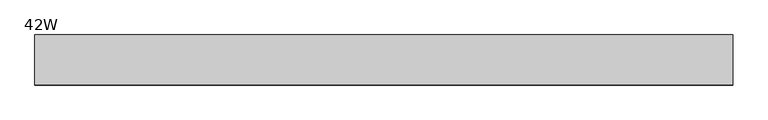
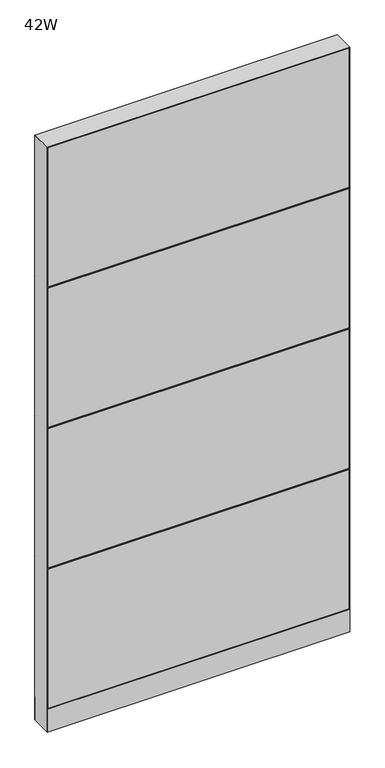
"""IFC4 building model written with IfcOpenShell, lengths in millimetres: furniture geometry, Steelcase - Montage - Frame - 86H - Enhanced Monolithic - Base Cavity : 42W."""

from ifc_helpers import new_model, si_unit, point, frame, frame_2d, origin, origin_with_axes, place, context, project, spatial, polyline, circle_curve, trimmed, segment, composite_curve, outline, extrude, faceted_brep, source, transform, mapped, element, save


def furniture_42w_71755c8c(model_context):
    return source(origin(), model_context, "Body", "SolidModel", [
        faceted_brep([(-5.4e-06, 38.102627, 1136.6500027), (6.3499917, 31.7526299, 1142.9999997), (1060.4500047, 31.7526299, 1142.9999997), (1066.8, 38.1026253, 1136.6500044), (1060.4500047, 31.7526299, 1130.3000003), (6.3499917, 31.7526299, 1130.3000003)], [[[0, 1, 2, 3]], [[3, 4, 5, 0]], [[1, 5, 4, 2]], [[0, 5, 1]], [[2, 4, 3]]]),
        faceted_brep([(-5.4e-06, 38.102627, 612.7750027), (6.3499917, 31.7526299, 619.1249997), (1060.4500047, 31.7526299, 619.1249997), (1066.8, 38.1026253, 612.7750044), (1060.4500047, 31.7526299, 606.4250003), (6.3499917, 31.7526299, 606.4250003)], [[[0, 1, 2, 3]], [[3, 4, 5, 0]], [[1, 5, 4, 2]], [[0, 5, 1]], [[2, 4, 3]]]),
        faceted_brep([(-5.4e-06, 38.102627, 1660.5250027), (6.3499917, 31.7526299, 1666.8749997), (1060.4500047, 31.7526299, 1666.8749997), (1066.8, 38.1026253, 1660.5250044), (1060.4500047, 31.7526299, 1654.1750003), (6.3499917, 31.7526299, 1654.1750003)], [[[0, 1, 2, 3]], [[3, 4, 5, 0]], [[1, 5, 4, 2]], [[0, 5, 1]], [[2, 4, 3]]]),
        extrude(outline(polyline([(3.175, 31.7500194), (3.175, 38.1000194), (1063.625, 38.1000194), (1063.625, 31.7500194), (3.175, 31.7500194)])), frame((0.0, 0.0, 1663.7), z_axis=(0.0, 0.0, 1.0), x_axis=(1.0, 0.0, 0.0)), (0.0, 0.0, 1.0), 517.525),
        extrude(outline(polyline([(3.175, 31.7500194), (3.175, 38.1000194), (1063.625, 38.1000194), (1063.625, 31.7500194), (3.175, 31.7500194)])), frame((0.0, 0.0, 92.075), z_axis=(0.0, 0.0, 1.0), x_axis=(1.0, 0.0, 0.0)), (0.0, 0.0, 1.0), 517.525),
        extrude(outline(polyline([(3.175, 31.7500194), (3.175, 38.1000194), (1063.625, 38.1000194), (1063.625, 31.7500194), (3.175, 31.7500194)])), frame((0.0, 0.0, 615.95), z_axis=(0.0, 0.0, 1.0), x_axis=(1.0, 0.0, 0.0)), (0.0, 0.0, 1.0), 517.525),
        extrude(outline(polyline([(3.175, 31.7500194), (3.175, 38.1000194), (1063.625, 38.1000194), (1063.625, 31.7500194), (3.175, 31.7500194)])), frame((0.0, 0.0, 1139.825), z_axis=(0.0, 0.0, 1.0), x_axis=(1.0, 0.0, 0.0)), (0.0, 0.0, 1.0), 517.525),
        faceted_brep([(0.0, -38.1026297, 1136.65), (1066.8, -38.1026297, 1136.65), (1060.4500047, -31.7526299, 1142.9999997), (6.3499917, -31.7526299, 1142.9999997), (6.3499917, -31.7526299, 1130.3000003), (1060.4500047, -31.7526299, 1130.3000003)], [[[0, 1, 2, 3]], [[1, 0, 4, 5]], [[3, 2, 5, 4]], [[0, 3, 4]], [[2, 1, 5]]]),
        faceted_brep([(0.0, -38.1026297, 612.775), (1066.8, -38.1026297, 612.775), (1060.4500047, -31.7526299, 619.1249997), (6.3499917, -31.7526299, 619.1249997), (6.3499917, -31.7526299, 606.4250003), (1060.4500047, -31.7526299, 606.4250003)], [[[0, 1, 2, 3]], [[1, 0, 4, 5]], [[3, 2, 5, 4]], [[0, 3, 4]], [[2, 1, 5]]]),
        faceted_brep([(0.0, -38.1026297, 1660.525), (1066.8, -38.1026297, 1660.525), (1060.4500047, -31.7526299, 1666.8749997), (6.3499917, -31.7526299, 1666.8749997), (6.3499917, -31.7526299, 1654.1750003), (1060.4500047, -31.7526299, 1654.1750003)], [[[0, 1, 2, 3]], [[1, 0, 4, 5]], [[3, 2, 5, 4]], [[0, 3, 4]], [[2, 1, 5]]]),
        extrude(outline(polyline([(3.175, -31.7500194), (1063.625, -31.7500194), (1063.625, -38.1000194), (3.175, -38.1000194), (3.175, -31.7500194)])), frame((0.0, 0.0, 1663.7), z_axis=(0.0, 0.0, 1.0), x_axis=(1.0, 0.0, 0.0)), (0.0, 0.0, 1.0), 517.525),
        extrude(outline(polyline([(3.175, -31.7500194), (1063.625, -31.7500194), (1063.625, -38.1000194), (3.175, -38.1000194), (3.175, -31.7500194)])), frame((0.0, 0.0, 92.075), z_axis=(0.0, 0.0, 1.0), x_axis=(1.0, 0.0, 0.0)), (0.0, 0.0, 1.0), 517.525),
        extrude(outline(polyline([(3.175, -31.7500194), (1063.625, -31.7500194), (1063.625, -38.1000194), (3.175, -38.1000194), (3.175, -31.7500194)])), frame((0.0, 0.0, 615.95), z_axis=(0.0, 0.0, 1.0), x_axis=(1.0, 0.0, 0.0)), (0.0, 0.0, 1.0), 517.525),
        extrude(outline(polyline([(3.175, -31.7500194), (1063.625, -31.7500194), (1063.625, -38.1000194), (3.175, -38.1000194), (3.175, -31.7500194)])), frame((0.0, 0.0, 1139.825), z_axis=(0.0, 0.0, 1.0), x_axis=(1.0, 0.0, 0.0)), (0.0, 0.0, 1.0), 517.525),
        extrude(outline(polyline([(6.350003, -31.7499985), (1060.449997, -31.7499985), (1066.8, -38.1000015), (0.0, -38.1000015), (6.350003, -31.7499985)])), frame((0.0, 0.0, 4.064), z_axis=(0.0, 0.0, 1.0), x_axis=(1.0, 0.0, 0.0)), (0.0, 0.0, 1.0), 84.835997),
        extrude(outline(polyline([(6.3500002, 31.7500017), (0.0, 38.1000015), (1066.8, 38.1000015), (1060.4500002, 31.7500017), (6.3500002, 31.7500017)])), frame((0.0, 0.0, 4.064), z_axis=(0.0, 0.0, 1.0), x_axis=(1.0, 0.0, 0.0)), (0.0, 0.0, 1.0), 84.835997),
        faceted_brep([(1066.8, -38.1000015, 2184.4), (0.0, -38.1000015, 2184.4), (6.3500484, -31.749953, 2178.0499516), (1060.4499516, -31.749953, 2178.0499516), (6.3500484, 31.749953, 2178.0499516), (1060.4499516, 31.749953, 2178.0499516), (0.0, 38.1000015, 2184.4), (1066.8, 38.1000015, 2184.4)], [[[0, 1, 2, 3]], [[3, 2, 4, 5]], [[6, 7, 5, 4]], [[1, 0, 7, 6]], [[2, 1, 6, 4]], [[0, 3, 5, 7]]]),
        extrude(outline(composite_curve([segment(trimmed(circle_curve(frame_2d((44.45, 0.0)), 15.24), [point((29.21, 0.0))], [point((59.69, 0.0))], False, "CARTESIAN"), True, "CONTINUOUS"), segment(trimmed(circle_curve(frame_2d((44.45, 0.0)), 15.24), [point((59.69, 0.0))], [point((29.21, 0.0))], False, "CARTESIAN"), True, "CONTINUOUS")], self_intersect=False)), origin_with_axes(), (0.0, 0.0, 1.0), 4.064),
        extrude(outline(composite_curve([segment(trimmed(circle_curve(frame_2d((1022.35, 0.0)), 15.24), [point((1007.11, 0.0))], [point((1037.59, 0.0))], False, "CARTESIAN"), True, "CONTINUOUS"), segment(trimmed(circle_curve(frame_2d((1022.35, 0.0)), 15.24), [point((1037.59, 0.0))], [point((1007.11, 0.0))], False, "CARTESIAN"), True, "CONTINUOUS")], self_intersect=False)), origin_with_axes(), (0.0, 0.0, 1.0), 4.064),
        faceted_brep([(1066.8, -38.1000106, 4.064), (1066.8, 38.1000015, 4.064), (1066.8, 38.1000015, 2184.4), (1066.8, -38.1000106, 2184.3999637), (0.0, 38.1000015, 4.064), (0.0, -38.1000015, 4.064), (0.0, -38.1000015, 2184.4), (0.0, 38.1000015, 2184.4), (1060.4499879, 31.7500017, 606.425), (6.35, 31.7500017, 606.425), (6.3499998, 31.7500017, 619.125), (1060.4499879, 31.7500017, 619.125), (6.35, -31.7499985, 619.125), (1060.4499879, -31.7499985, 619.125), (6.350003, -31.7499985, 606.425), (1060.4499879, -31.7499985, 606.425), (1060.4499879, 31.7500017, 1130.3), (6.35, 31.7500017, 1130.3), (6.3499998, 31.7500017, 1143.0), (1060.4499879, 31.7500017, 1143.0), (6.35, -31.7499985, 1143.0), (1060.4499879, -31.7499985, 1143.0), (6.350003, -31.7499985, 1130.3), (1060.4499879, -31.7499985, 1130.3), (1060.4499879, 31.7500017, 1654.175), (6.35, 31.7500017, 1654.175), (6.3499998, 31.7500017, 1666.875), (1060.4499879, 31.7500017, 1666.875), (6.35, -31.7499985, 1666.875), (1060.4499879, -31.7499985, 1666.875), (6.350003, -31.7499985, 1654.175), (1060.4499879, -31.7499985, 1654.175), (6.35, 31.7500015, 4.064), (6.35, -31.7500015, 4.064), (1060.4499879, 31.7499894, 4.064), (1060.4499879, -31.7499985, 4.064), (6.35, 31.7500015, 2178.05), (6.35, -31.7500015, 2178.05), (1060.4499879, -31.7499985, 2178.0499516), (1060.4499879, 31.7499895, 2178.0499516)], [[[0, 1, 2, 3]], [[4, 5, 6, 7]], [[8, 9, 10, 11]], [[11, 10, 12, 13]], [[13, 12, 14, 15]], [[9, 8, 15, 14]], [[16, 17, 18, 19]], [[19, 18, 20, 21]], [[21, 20, 22, 23]], [[17, 16, 23, 22]], [[24, 25, 26, 27]], [[27, 26, 28, 29]], [[29, 28, 30, 31]], [[25, 24, 31, 30]], [[32, 33, 5, 4]], [[34, 1, 0, 35]], [[32, 4, 7, 36, 26, 25, 18, 17, 10, 9]], [[5, 33, 14, 12, 22, 20, 30, 28, 37, 6]], [[33, 32, 9, 14]], [[10, 17, 22, 12]], [[18, 25, 30, 20]], [[28, 26, 36, 37]], [[34, 35, 15, 8]], [[16, 11, 13, 23]], [[24, 19, 21, 31]], [[27, 29, 38, 39]], [[35, 0, 3, 38, 29, 31, 21, 23, 13, 15]], [[1, 34, 8, 11, 16, 19, 24, 27, 39, 2]], [[7, 6, 37, 36]], [[3, 2, 39, 38]]]),
    ])


if __name__ == "__main__":
    model = new_model("IFC4")
    model_context = context("Model", 3, world=origin())
    ifc_project = project(units=[si_unit("LENGTHUNIT", "METRE", prefix="MILLI")], contexts=[model_context])
    site = spatial("IfcSite", under=ifc_project)
    building = spatial("IfcBuilding", under=site)
    placement = place(None, origin())
    furniture_42w_shape = furniture_42w_71755c8c(model_context)
    element("IfcFurniture", 1, ObjectType="Steelcase - Montage - Frame - 86H - Enhanced Monolithic - Base Cavity : 42W", at=placement, inside=building, context=model_context, shape_type="MappedRepresentation", body=[
        mapped(furniture_42w_shape, transform((0.0, 0.0, 0.0), x_axis=(1.0, 0.0, 0.0), y_axis=(0.0, 1.0, 0.0), z_axis=(0.0, 0.0, 1.0))),
    ])
    save(model, "model.ifc")
